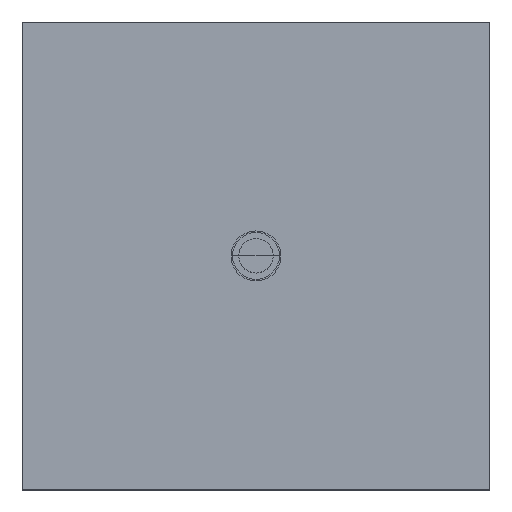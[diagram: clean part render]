
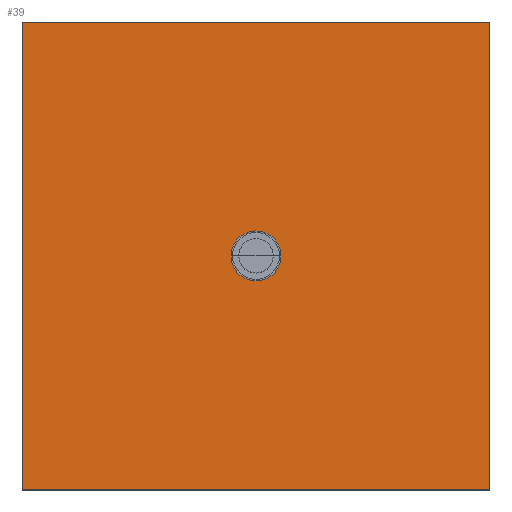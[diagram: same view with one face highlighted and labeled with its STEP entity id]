
A CAD part, top view. The second image highlights one B-rep face of the part: STEP entity #39.
In plain terms, the highlighted planar face has unit normal (0, 0, 1).
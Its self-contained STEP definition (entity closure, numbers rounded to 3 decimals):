
#39 = ADVANCED_FACE('',(#40),#74,.T.);
#40 = FACE_BOUND('',#41,.T.);
#41 = EDGE_LOOP('',(#42,#52,#60,#68));
#42 = ORIENTED_EDGE('',*,*,#43,.T.);
#43 = EDGE_CURVE('',#44,#46,#48,.T.);
#44 = VERTEX_POINT('',#45);
#45 = CARTESIAN_POINT('',(-150.,150.,-49.2));
#46 = VERTEX_POINT('',#47);
#47 = CARTESIAN_POINT('',(-150.,-150.,-49.2));
#48 = LINE('',#49,#50);
#49 = CARTESIAN_POINT('',(-150.,150.,-49.2));
#50 = VECTOR('',#51,1.);
#51 = DIRECTION('',(0.,-1.,0.));
#52 = ORIENTED_EDGE('',*,*,#53,.T.);
#53 = EDGE_CURVE('',#46,#54,#56,.T.);
#54 = VERTEX_POINT('',#55);
#55 = CARTESIAN_POINT('',(150.,-150.,-49.2));
#56 = LINE('',#57,#58);
#57 = CARTESIAN_POINT('',(-150.,-150.,-49.2));
#58 = VECTOR('',#59,1.);
#59 = DIRECTION('',(1.,0.,0.));
#60 = ORIENTED_EDGE('',*,*,#61,.T.);
#61 = EDGE_CURVE('',#54,#62,#64,.T.);
#62 = VERTEX_POINT('',#63);
#63 = CARTESIAN_POINT('',(150.,150.,-49.2));
#64 = LINE('',#65,#66);
#65 = CARTESIAN_POINT('',(150.,-150.,-49.2));
#66 = VECTOR('',#67,1.);
#67 = DIRECTION('',(0.,1.,0.));
#68 = ORIENTED_EDGE('',*,*,#69,.T.);
#69 = EDGE_CURVE('',#62,#44,#70,.T.);
#70 = LINE('',#71,#72);
#71 = CARTESIAN_POINT('',(150.,150.,-49.2));
#72 = VECTOR('',#73,1.);
#73 = DIRECTION('',(-1.,0.,0.));
#74 = PLANE('',#75);
#75 = AXIS2_PLACEMENT_3D('',#76,#77,#78);
#76 = CARTESIAN_POINT('',(-150.,-150.,-49.2));
#77 = DIRECTION('',(0.,0.,1.));
#78 = DIRECTION('',(0.,-1.,0.));
